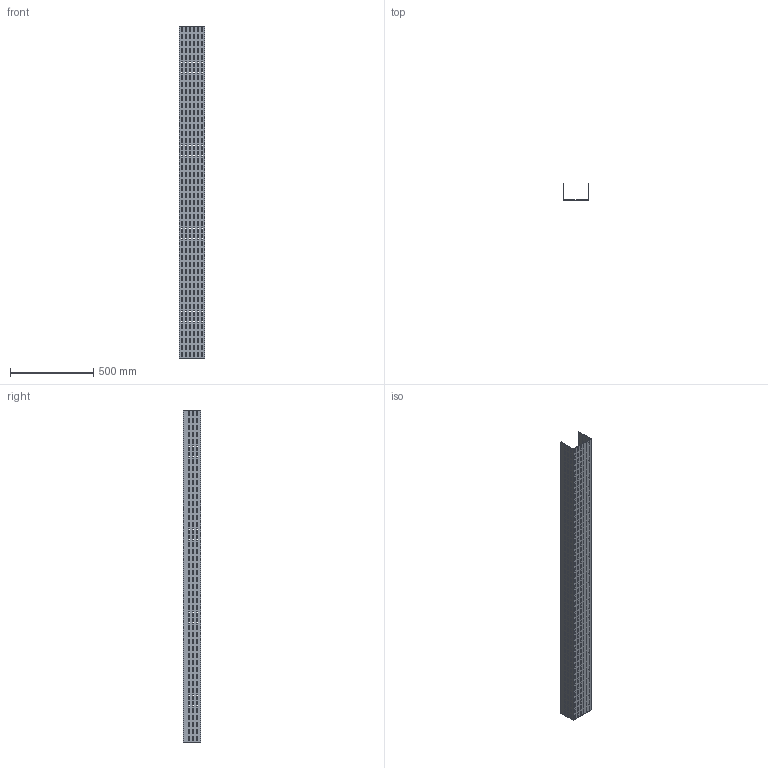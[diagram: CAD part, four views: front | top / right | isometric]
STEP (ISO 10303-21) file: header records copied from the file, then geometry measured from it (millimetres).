
FILE_DESCRIPTION (( 'STEP AP214' ), '1' );
FILE_NAME ('01F2D150.step', '2025-02-21T13:08:55', ( '' ), ( '' ), 'SwSTEP 2.0', 'SolidWorks 2023', '' );
FILE_SCHEMA (( 'AUTOMOTIVE_DESIGN' ));
Products named in the file (1): 01F2D150
Bounding box: 154 x 104 x 2000 mm (x, y, z)
Volume: 2132200 mm3; surface area: 1363909 mm2
Topology: 1 solids, 1 shells, 2314 faces, 6936 edges, 4624 vertices
Faces by surface type: plane 2314
Entity records: 78647 total; most frequent: CARTESIAN_POINT 13875, ORIENTED_EDGE 13872, DIRECTION 11566, VECTOR 6936, EDGE_CURVE 6936, LINE 6936, VERTEX_POINT 4624, EDGE_LOOP 3466
